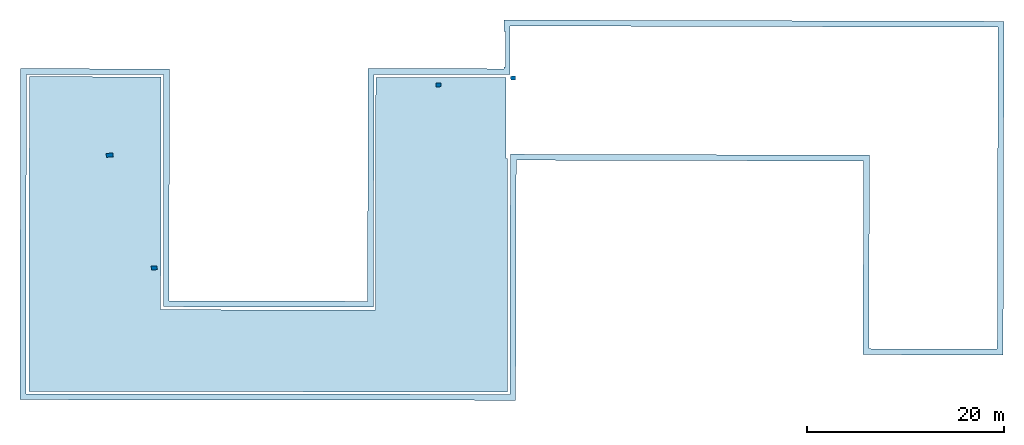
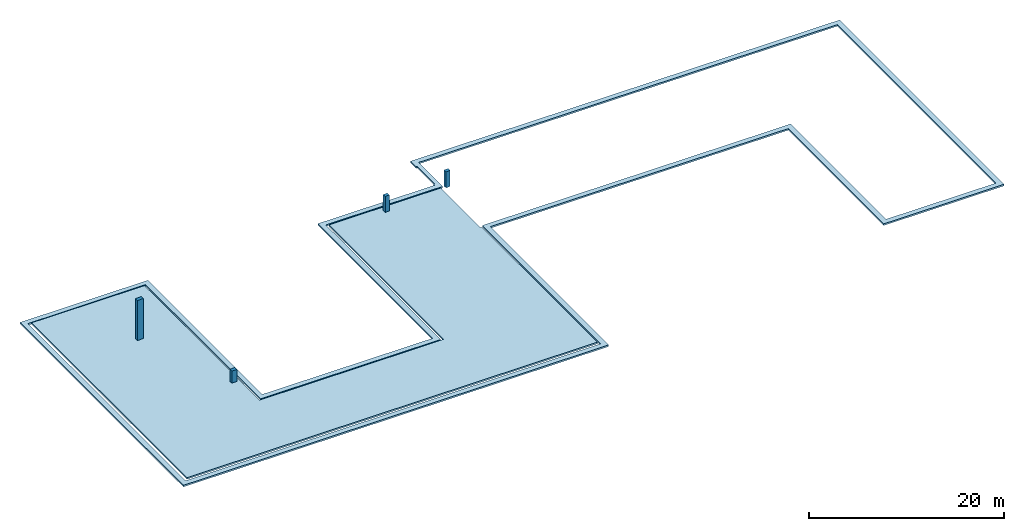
# One storey: 4 columns, 2 slabs, 1 opening.
"""IFC2X3 building model written with IfcOpenShell, lengths in metres."""

import ifcopenshell
import ifcopenshell.guid

model = None  # the IFC model being written
_history = None  # IfcOwnerHistory: only IFC2X3 demands one
_inside = {}  # id of a spatial element -> (the spatial element, [elements in it])
_under = {}  # id of a project, library or spatial element -> (it, [spatial elements below it])
_declared = {}  # id of a project -> (the project, [libraries it declares])
_typed = {}  # id of a type object -> (the type object, [elements of that type])
_made_of = {}  # id of a material, layer set ... -> (it, [elements and type objects made of it])


def new_model(schema):
    """Start an empty IFC model of exactly this schema.

    Asked for "IFC4X3", IfcOpenShell would pick the latest addendum, in which some entities
    have other attributes; the version numbers below select the first issue.
    IFC2X3 requires an IfcOwnerHistory on every rooted entity: one is made here for all.
    """
    global model, _history
    if schema == "IFC4X3":
        model = ifcopenshell.file(schema_version=(4, 3, 0, 0))
    else:
        model = ifcopenshell.file(schema=schema)
    _inside.clear()
    _under.clear()
    _declared.clear()
    _typed.clear()
    _made_of.clear()
    _history = None
    if model.schema == "IFC2X3":
        org = make("IfcOrganization", Name="unknown")
        user = make(
            "IfcPersonAndOrganization",
            ThePerson=make("IfcPerson", FamilyName="unknown"),
            TheOrganization=org,
        )
        app = make(
            "IfcApplication",
            ApplicationDeveloper=org,
            Version="unknown",
            ApplicationFullName="unknown",
            ApplicationIdentifier="unknown",
        )
        _history = make(
            "IfcOwnerHistory",
            OwningUser=user,
            OwningApplication=app,
            ChangeAction="ADDED",
            CreationDate=0,
        )
    return model


def make(cls, **values):
    """One entity of the class cls with the attributes given. An attribute that is None is left unset."""
    return model.create_entity(
        cls, **{name: value for name, value in values.items() if value is not None}
    )


def entity(cls, *values):
    """Any entity or typed value of the class cls, its attributes in the order of the schema. None: left unset."""
    e = model.create_entity(cls)
    for i, value in enumerate(values):
        if value is not None:
            e[i] = value
    return e


def rooted(cls, **values):
    """An entity with a GlobalId (a new one), such as an element, a storey or a relation."""
    return make(cls, GlobalId=ifcopenshell.guid.new(), OwnerHistory=_history, **values)


def si_unit(unit_type, name, prefix=None):
    """IfcSIUnit, for example si_unit("LENGTHUNIT", "METRE", prefix="MILLI")."""
    return make("IfcSIUnit", UnitType=unit_type, Prefix=prefix, Name=name)


def converted_unit(unit_type, name, factor, base, dimensions=None, offset=None):
    """IfcConversionBasedUnit, such as the inch: factor (a typed value) times the base unit."""
    return make(
        "IfcConversionBasedUnit"
        if offset is None
        else "IfcConversionBasedUnitWithOffset",
        ConversionOffset=offset,
        Dimensions=None
        if dimensions is None
        else entity("IfcDimensionalExponents", *dimensions),
        UnitType=unit_type,
        Name=name,
        ConversionFactor=make(
            "IfcMeasureWithUnit", ValueComponent=factor, UnitComponent=base
        ),
    )


def derived_unit(unit_type, elements):
    """IfcDerivedUnit: a product of units, each with its exponent."""
    return make(
        "IfcDerivedUnit",
        Elements=[
            make("IfcDerivedUnitElement", Unit=unit, Exponent=power)
            for unit, power in elements
        ],
        UnitType=unit_type,
    )


def assignment(units):
    """IfcUnitAssignment: the units of a project."""
    return None if units is None else make("IfcUnitAssignment", Units=units)


def point(xyz):
    """IfcCartesianPoint."""
    return None if xyz is None else make("IfcCartesianPoint", Coordinates=xyz)


def direction(xyz):
    """IfcDirection."""
    return None if xyz is None else make("IfcDirection", DirectionRatios=xyz)


def frame(location, z_axis=None, x_axis=None):
    """IfcAxis2Placement3D, a coordinate frame: its origin and axes. An axis left out is left unset."""
    return make(
        "IfcAxis2Placement3D",
        Location=point(location),
        Axis=direction(z_axis),
        RefDirection=direction(x_axis),
    )


def frame_2d(location, x_axis=None):
    """IfcAxis2Placement2D, a coordinate frame in the plane: its origin and x axis."""
    return make(
        "IfcAxis2Placement2D", Location=point(location), RefDirection=direction(x_axis)
    )


def origin():
    """The frame at (0, 0, 0) with its axes left unset."""
    return frame((0.0, 0.0, 0.0))


def origin_2d_with_axis():
    """The frame at (0, 0) in the plane with the x axis (1, 0) written out."""
    return frame_2d((0.0, 0.0), x_axis=(1.0, 0.0))


def place(relative_to, where):
    """IfcLocalPlacement: puts the frame where relative to a parent placement (None: the world)."""
    return make(
        "IfcLocalPlacement", PlacementRelTo=relative_to, RelativePlacement=where
    )


def context(
    kind, dimensions, precision=None, world=None, true_north=None, identifier=None
):
    """IfcGeometricRepresentationContext, for example the 3D "Model" context."""
    return make(
        "IfcGeometricRepresentationContext",
        ContextIdentifier=identifier,
        ContextType=kind,
        CoordinateSpaceDimension=dimensions,
        Precision=precision,
        WorldCoordinateSystem=world,
        TrueNorth=true_north,
    )


def subcontext(parent, identifier, kind, view, scale=None):
    """IfcGeometricRepresentationSubContext, for example "Body" below "Model"."""
    return make(
        "IfcGeometricRepresentationSubContext",
        ContextIdentifier=identifier,
        ContextType=kind,
        ParentContext=parent,
        TargetScale=scale,
        TargetView=view,
    )


def project(units=None, contexts=None):
    """IfcProject with its units and contexts."""
    return rooted(
        "IfcProject",
        Name="project",
        RepresentationContexts=contexts,
        UnitsInContext=assignment(units),
    )


def spatial(cls, under=None, at=None, **own):
    """A site, building, storey or space (cls), placed at a placement, below another one or the project."""
    s = rooted(cls, ObjectPlacement=at, **own)
    if under is not None:
        _under.setdefault(under.id(), (under, []))[1].append(s)
    return s


def polyline(points):
    """IfcPolyline through the points."""
    return make("IfcPolyline", Points=[point(p) for p in points])


def profile(cls, at=None, kind="AREA", **sizes):
    """A parametric profile (cls). Its sizes go by their IFC names, for example OverallWidth=200.0."""
    return make(cls, ProfileType=kind, Position=at, **sizes)


def rectangle(**sizes):
    """IfcRectangleProfileDef."""
    return profile("IfcRectangleProfileDef", **sizes)


def outline(outer, holes=None, kind="AREA"):
    """IfcArbitraryClosedProfileDef: a profile drawn as a closed curve; with holes, ...WithVoids."""
    if holes is None:
        return make("IfcArbitraryClosedProfileDef", ProfileType=kind, OuterCurve=outer)
    return make(
        "IfcArbitraryProfileDefWithVoids",
        ProfileType=kind,
        OuterCurve=outer,
        InnerCurves=holes,
    )


def extrude(swept, where, along, depth):
    """IfcExtrudedAreaSolid: the profile swept, set in the frame where, extruded along a direction by depth."""
    return make(
        "IfcExtrudedAreaSolid",
        SweptArea=swept,
        Position=where,
        ExtrudedDirection=direction(along),
        Depth=depth,
    )


def boolean(op, a, b):
    """IfcBooleanResult of two solids."""
    return make("IfcBooleanResult", Operator=op, FirstOperand=a, SecondOperand=b)


def shape(context_of_items, identifier, shape_type, items):
    """IfcShapeRepresentation: the items that make up one representation, for example the "Body"."""
    return make(
        "IfcShapeRepresentation",
        ContextOfItems=context_of_items,
        RepresentationIdentifier=identifier,
        RepresentationType=shape_type,
        Items=items,
    )


def source(mapping_origin, context_of_items, identifier, shape_type, items):
    """IfcRepresentationMap: a shape defined once, which mapped items show again and again."""
    return make(
        "IfcRepresentationMap",
        MappingOrigin=mapping_origin,
        MappedRepresentation=shape(context_of_items, identifier, shape_type, items),
    )


def transform(
    local_origin,
    x_axis=None,
    y_axis=None,
    z_axis=None,
    scale=None,
    scale2=None,
    scale3=None,
    uniform=True,
):
    """IfcCartesianTransformationOperator3D, or its non-uniform kind. x_axis, y_axis, z_axis: its Axis1, 2, 3."""
    if uniform:
        return make(
            "IfcCartesianTransformationOperator3D",
            Axis1=direction(x_axis),
            Axis2=direction(y_axis),
            LocalOrigin=point(local_origin),
            Scale=scale,
            Axis3=direction(z_axis),
        )
    return make(
        "IfcCartesianTransformationOperator3DnonUniform",
        Axis1=direction(x_axis),
        Axis2=direction(y_axis),
        LocalOrigin=point(local_origin),
        Scale=scale,
        Axis3=direction(z_axis),
        Scale2=scale2,
        Scale3=scale3,
    )


def mapped(mapping_source, mapping_target):
    """IfcMappedItem: shows the shape of a source again, moved by a transform."""
    return make(
        "IfcMappedItem", MappingSource=mapping_source, MappingTarget=mapping_target
    )


def material(Name=None, Category=None):
    """IfcMaterial."""
    return make("IfcMaterial", Name=Name, Category=Category)


def layer(
    of_material, thickness, ventilated=None, Name=None, Category=None, Priority=None
):
    """IfcMaterialLayer: one layer of a wall or slab, of a material (None: an air gap)."""
    return make(
        "IfcMaterialLayer",
        Material=of_material,
        LayerThickness=thickness,
        IsVentilated=ventilated,
        Name=Name,
        Category=Category,
        Priority=Priority,
    )


def layer_set(layers, Name=None):
    """IfcMaterialLayerSet."""
    return make("IfcMaterialLayerSet", MaterialLayers=layers, LayerSetName=Name)


def layer_usage(for_layer_set, set_direction, sense, offset, extent=None):
    """IfcMaterialLayerSetUsage: how a layer set lies in its element."""
    return make(
        "IfcMaterialLayerSetUsage",
        ForLayerSet=for_layer_set,
        LayerSetDirection=set_direction,
        DirectionSense=sense,
        OffsetFromReferenceLine=offset,
        ReferenceExtent=extent,
    )


def made_of(thing, what):
    """Note that an element or type object is made of a material, layer set ...; save() writes the relation."""
    if what is not None:
        _made_of.setdefault(what.id(), (what, []))[1].append(thing)
    return thing


def type_object(cls, material=None, **own):
    """A type object (cls), such as IfcWallType, which elements share."""
    return made_of(rooted(cls, **own), material)


def type_shapes(of_type, sources):
    """Give a type object the sources (RepresentationMaps) that its elements show as mapped items."""
    of_type.RepresentationMaps = sources


def element(
    cls,
    number,
    at=None,
    inside=None,
    cuts=None,
    type_object=None,
    material=None,
    context=None,
    identifier="Body",
    shape_type=None,
    held_by="IfcProductDefinitionShape",
    body=None,
    shapes=None,
    **own,
):
    """One element of the class cls, such as IfcWall. Its Tag is "e" and its number.

    at: its placement. inside: the storey or other place that contains it. cuts: it is an
    opening in that element (IfcRelVoidsElement). A single representation is given by context,
    identifier, shape_type and body (its items); several are given by shapes. held_by: the class
    of the entity that holds the representations. save() writes the other relations.
    """
    e = rooted(cls, Tag="e%d" % number, ObjectPlacement=at, **own)
    if body is not None:
        shapes = [shape(context, identifier, shape_type, body)]
    if shapes is not None:
        e.Representation = make(held_by, Representations=shapes)
    if inside is not None:
        _inside.setdefault(inside.id(), (inside, []))[1].append(e)
    if cuts is not None:
        rooted(
            "IfcRelVoidsElement", RelatingBuildingElement=cuts, RelatedOpeningElement=e
        )
    if type_object is not None:
        _typed.setdefault(type_object.id(), (type_object, []))[1].append(e)
    return made_of(e, material)


def aggregate(whole, parts):
    """IfcRelAggregates: a whole, such as a stair, and the parts it consists of."""
    return rooted("IfcRelAggregates", RelatingObject=whole, RelatedObjects=parts)


def save(model, path):
    """Write the relations noted so far, then the file.

    IfcRelAggregates (storeys below a building ...), IfcRelContainedInSpatialStructure (elements
    in a storey), IfcRelDefinesByType, IfcRelAssociatesMaterial and IfcRelDeclares: one each for
    every whole, place, type object, material and project.
    """
    for whole, parts in _under.values():
        aggregate(whole, parts)
    for where, things in _inside.values():
        rooted(
            "IfcRelContainedInSpatialStructure",
            RelatedElements=things,
            RelatingStructure=where,
        )
    for kind, things in _typed.values():
        rooted("IfcRelDefinesByType", RelatedObjects=things, RelatingType=kind)
    for what, things in _made_of.values():
        rooted("IfcRelAssociatesMaterial", RelatedObjects=things, RelatingMaterial=what)
    for by, libraries in _declared.values():
        rooted("IfcRelDeclares", RelatingContext=by, RelatedDefinitions=libraries)
    model.write(path)


model = new_model("IFC2X3")

# Units and contexts
model_context = context("Model", 3, precision=1e-05, world=origin(), true_north=direction((6.123233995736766e-17, 1.0)))
body_context = subcontext(model_context, "Body", "Model", "MODEL_VIEW")
ifc_project = project(units=[si_unit("LENGTHUNIT", "METRE"), si_unit("AREAUNIT", "SQUARE_METRE"), converted_unit("PLANEANGLEUNIT", "DEGREE", entity("IfcPlaneAngleMeasure", 0.017453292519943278), si_unit("PLANEANGLEUNIT", "RADIAN"), dimensions=[0, 0, 0, 0, 0, 0, 0]), derived_unit("THERMALTRANSMITTANCEUNIT", [(si_unit("MASSUNIT", "GRAM", prefix="KILO"), 1), (si_unit("THERMODYNAMICTEMPERATUREUNIT", "KELVIN"), -1), (si_unit("TIMEUNIT", "SECOND"), -3)])], contexts=[model_context])

# Site, building, storey
site_placement = place(None, frame((1253.6752467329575, 2072.143113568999, 91.49999999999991), z_axis=(0.0, 0.0, 1.0), x_axis=(0.7237211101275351, 0.6900925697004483, 0.0)))
site = spatial("IfcSite", under=ifc_project, at=site_placement, Name="Surface", CompositionType="ELEMENT")
building_placement = place(site_placement, origin())
building = spatial("IfcBuilding", under=site, at=building_placement, CompositionType="ELEMENT")
storey_placement = place(building_placement, frame((0.0, 0.0, 10.029999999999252)))
storey = spatial("IfcBuildingStorey", under=building, at=storey_placement, Name="3-Combles", CompositionType="ELEMENT", Elevation=10.029999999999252)

# Columns
ifc_material_1 = material(Name="Béton")
column_type_1 = type_object("IfcColumnType", Name="ART-Béton-Poteau rectangulaire:70X40 béton", PredefinedType="COLUMN", material=ifc_material_1)
shared_shape_1 = source(origin(), body_context, "Body", "SweptSolid", [
    extrude(rectangle(XDim=0.6999999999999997, YDim=0.39999999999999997, at=origin_2d_with_axis()), frame((0.0, 0.0, 10.029999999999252), z_axis=(0.0, 0.0, 1.0), x_axis=(-1.0, 0.0, 0.0)), (0.0, 0.0, 1.0), 5.0),
])
type_shapes(column_type_1, [shared_shape_1])
column_1_placement = place(storey_placement, frame((166.6827242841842, 15.952234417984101, -10.029999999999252), z_axis=(0.0, 0.0, 1.0), x_axis=(-0.7656038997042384, 0.6433122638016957, 0.0)))
element("IfcColumn", 1, at=column_1_placement, inside=storey, type_object=column_type_1, material=ifc_material_1, Name="ART-Béton-Poteau rectangulaire:70X40 béton", ObjectType="ART-Béton-Poteau rectangulaire:70X40 béton", context=body_context, shape_type="MappedRepresentation", body=[
    mapped(shared_shape_1, transform((0.0, 0.0, 0.0), scale=1.0)),
])
column_type_2 = type_object("IfcColumnType", Name="ART-Béton-Poteau rectangulaire:60X40 béton", PredefinedType="COLUMN", material=ifc_material_1)
shared_shape_2 = source(origin(), body_context, "Body", "SweptSolid", [
    extrude(rectangle(XDim=0.5999999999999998, YDim=0.39999999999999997, at=origin_2d_with_axis()), frame((0.0, 0.0, 10.029999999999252), z_axis=(0.0, 0.0, 1.0), x_axis=(-1.0, 0.0, 0.0)), (0.0, 0.0, 1.0), 1.4999999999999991),
])
type_shapes(column_type_2, [shared_shape_2])
column_2_placement = place(storey_placement, frame((162.0668378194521, 4.569179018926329, -10.029999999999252), z_axis=(0.0, 0.0, 1.0), x_axis=(-0.7656038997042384, 0.6433122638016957, 0.0)))
element("IfcColumn", 2, at=column_2_placement, inside=storey, type_object=column_type_2, material=ifc_material_1, Name="ART-Béton-Poteau rectangulaire:60X40 béton", ObjectType="ART-Béton-Poteau rectangulaire:60X40 béton", context=body_context, shape_type="MappedRepresentation", body=[
    mapped(shared_shape_2, transform((0.0, 0.0, 0.0), scale=1.0)),
])
column_type_3 = type_object("IfcColumnType", Name="ART-Béton-Poteau rectangulaire:50X40", PredefinedType="COLUMN", material=ifc_material_1)
shared_shape_3 = source(origin(), body_context, "Body", "SweptSolid", [
    extrude(rectangle(XDim=0.49999999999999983, YDim=0.39999999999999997, at=origin_2d_with_axis()), frame((0.0, 0.0, 10.029999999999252), z_axis=(0.0, 0.0, 1.0), x_axis=(-1.0, 0.0, 0.0)), (0.0, 0.0, 1.0), 2.0),
])
type_shapes(column_type_3, [shared_shape_3])
for number, where, z_axis, x_axis in (
    (3, (195.70847202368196, -1.8796855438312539, -10.029999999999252), (0.0, 0.0, 1.0), (-0.7656038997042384, 0.6433122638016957, 0.0)),
    (4, (201.66248691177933, -6.6151509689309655, -10.029999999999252), (0.0, 0.0, 1.0), (-0.7656038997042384, 0.6433122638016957, 0.0)),
):
    element("IfcColumn", number, at=place(storey_placement, frame(where, z_axis=z_axis, x_axis=x_axis)), inside=storey, type_object=column_type_3, material=ifc_material_1, Name="ART-Béton-Poteau rectangulaire:50X40", ObjectType="ART-Béton-Poteau rectangulaire:50X40", context=body_context, shape_type="MappedRepresentation", body=[
        mapped(shared_shape_3, transform((0.0, 0.0, 0.0), scale=1.0)),
    ])

# Slab
ifc_material_2 = material(Name="OMD_Béton blanc")
ifc_layer_1 = layer(ifc_material_2, 0.2)
ifc_layer_set_1 = layer_set([ifc_layer_1], Name="Sol:Dalle 20")
ifc_layer_usage_1 = layer_usage(ifc_layer_set_1, "AXIS3", "POSITIVE", 0.0)
slab_type_1 = type_object("IfcSlabType", Name="Sol:Dalle 20", PredefinedType="FLOOR", material=ifc_layer_set_1)
slab_1_placement = place(storey_placement, origin())
element("IfcSlab", 5, at=slab_1_placement, inside=storey, type_object=slab_type_1, material=ifc_layer_usage_1, Name="Sol:Dalle 20", ObjectType="Sol:Dalle 20", PredefinedType="FLOOR", context=body_context, shape_type="SweptSolid", body=[
    extrude(outline(polyline([(-12.74381606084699, -15.705380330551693), (-12.762058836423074, -29.046406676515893), (19.14381682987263, -29.053940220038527), (19.143816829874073, 19.444619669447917), (-4.51851303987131, 19.444619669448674), (-4.518513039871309, 19.249910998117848), (-12.716183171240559, 19.249910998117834), (-12.716183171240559, 6.0610231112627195), (10.843816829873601, 6.06102311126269), (10.843816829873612, -15.705380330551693), (-12.74381606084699, -15.705380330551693)])), frame((178.46363369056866, -1.9606624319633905, 0.0), z_axis=(0.0, 0.0, 1.0), x_axis=(-0.6909838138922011, -0.7228702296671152, 0.0)), (0.0, 0.0, -1.0), 0.2),
])

# Slab, opening
ifc_layer_2 = layer(ifc_material_2, 0.2)
ifc_layer_set_2 = layer_set([ifc_layer_2], Name="Sol:corniche 2")
ifc_layer_usage_2 = layer_usage(ifc_layer_set_2, "AXIS3", "POSITIVE", 0.0)
slab_type_2 = type_object("IfcSlabType", Name="Sol:corniche 2", PredefinedType="FLOOR", material=ifc_layer_set_2)
slab_2_placement = place(storey_placement, origin())
slab_2 = element("IfcSlab", 6, at=slab_2_placement, inside=storey, type_object=slab_type_2, material=ifc_layer_usage_2, Name="Sol:corniche 2", ObjectType="Sol:corniche 2", PredefinedType="FLOOR", context=body_context, shape_type="SweptSolid", body=[
    boolean("DIFFERENCE", extrude(outline(polyline([(-12.870532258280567, 9.614179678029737), (-12.870532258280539, -13.985820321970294), (-32.97806024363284, -13.985820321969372), (-33.01030861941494, 9.509179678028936), (-48.10115765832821, 9.509179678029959), (-48.06302186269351, -24.047911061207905), (2.169467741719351, -23.978963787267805), (2.1694677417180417, 0.35917967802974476), (37.35946774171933, 0.3591796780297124), (37.359467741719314, -19.260820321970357), (51.559467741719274, -19.26082032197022), (51.55946774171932, 14.559179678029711), (0.9094677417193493, 14.559179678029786), (0.9094677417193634, 13.414179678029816), (1.0394677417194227, 13.414179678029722), (1.0394677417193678, 9.804179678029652), (0.9094677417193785, 9.80417967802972), (0.909467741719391, 9.614179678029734), (-12.870532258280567, 9.614179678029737)])), frame((194.34045737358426, -11.606274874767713, -0.1299999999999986), z_axis=(0.0, 0.0, 1.0), x_axis=(0.721921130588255, -0.6919753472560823, 0.0)), (0.0, 0.0, -1.0), 0.2), extrude(outline(polyline([(-11.069908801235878, 33.37712527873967), (12.472442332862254, 33.37712527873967), (12.473766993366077, 47.268130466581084), (-19.882431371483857, 47.34448966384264), (-19.986569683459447, -1.6886154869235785), (4.352251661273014, -1.773718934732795), (4.225010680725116, -38.163496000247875), (-15.394864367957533, -38.0948928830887), (-15.440320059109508, -51.09481209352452), (17.179476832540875, -51.208870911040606), (17.352383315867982, -1.7591703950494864), (12.407407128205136, -1.741879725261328), (12.455590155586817, 12.03803313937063), (-11.144234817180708, 12.120552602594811), (-11.069908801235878, 33.37712527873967)])), frame((191.8518067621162, -13.929462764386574, -0.3299999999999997), z_axis=(0.0, 0.0, 1.0), x_axis=(0.6894470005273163, 0.7243361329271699, 0.0)), (0.0, 0.0, 1.0), 0.20000000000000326)),
])
opening_placement = place(slab_2_placement, origin())
element("IfcOpeningElement", 7, at=opening_placement, cuts=slab_2, Name="Sol:corniche 2", ObjectType="Opening", context=body_context, shape_type="SweptSolid", body=[
    extrude(outline(polyline([(-47.26931976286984, -12.469259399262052), (-33.37831451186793, -12.469259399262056), (-33.376069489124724, 11.073091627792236), (-12.119489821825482, 11.145390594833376), (-12.039220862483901, -12.454442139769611), (1.7406965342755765, -12.407573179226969), (1.7575156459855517, -17.352550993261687), (51.207232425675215, -17.18436008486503), (51.09628426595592, 15.435447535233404), (38.09636077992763, 15.391231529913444), (38.16309292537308, -4.228649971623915), (1.773303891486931, -4.352420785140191), (1.6905214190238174, 19.986408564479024), (-47.34259343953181, 19.88694610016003), (-47.26931976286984, -12.469259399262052)])), frame((191.85180676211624, -13.929462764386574, -0.12999999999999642), z_axis=(0.0, 0.0, -1.0), x_axis=(0.7242703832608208, -0.6895160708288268, 0.0)), (0.0, 0.0, 1.0), 0.2),
])

save(model, "model.ifc")
